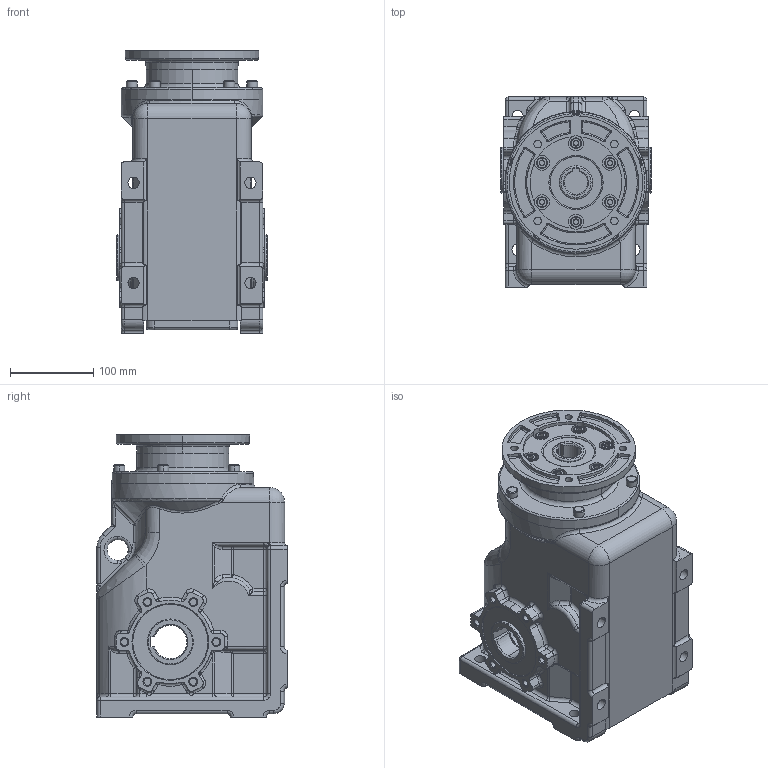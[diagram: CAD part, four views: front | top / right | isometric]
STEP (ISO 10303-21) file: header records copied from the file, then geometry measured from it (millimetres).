
FILE_DESCRIPTION (( 'STEP AP214' ), '1' );
FILE_NAME ('ktm43133-hohlwelle-f130-ap100.STEP', '2009-07-10T11:00:48', ( '' ), ( '' ), 'SwSTEP 2.0', 'SolidWorks 2003240', '' );
FILE_SCHEMA (( 'AUTOMOTIVE_DESIGN' ));
Length unit declared in the file: millimetre
Products named in the file (4): skøíò KTM43_Skøíò KTM43-Hohlwelle-FM-AP100; N021143_Šroub s vnitøním šestihranem DIN 912 - M8 x 25; ktm43133-hohlwelle-f130-ap100; Pøíruba MRT120 kulatá _110-130-150
Assembly tree (8 placements, depth 2):
  ktm43133-hohlwelle-f130-ap100
    Pøíruba MRT120 kulatá _110-130-150
    N021143_Šroub s vnitøním šestihranem DIN 912 - M8 x 25  x6
    skøíò KTM43_Skøíò KTM43-Hohlwelle-FM-AP100
Bounding box: 180 x 228 x 338 mm (x, y, z)
Volume: 8750434.3 mm3; surface area: 440317.5 mm2
Topology: 8 solids, 8 shells, 1147 faces, 2679 edges, 1557 vertices
Faces by surface type: cylinder 418, plane 224, torus 202, cone 137, bspline 122, sphere 44
Entity records: 97667 total; most frequent: CARTESIAN_POINT 73364, DIRECTION 5205, ORIENTED_EDGE 4782, EDGE_CURVE 2391, AXIS2_PLACEMENT_3D 2206, VERTEX_POINT 1423, CIRCLE 1300, EDGE_LOOP 1102
